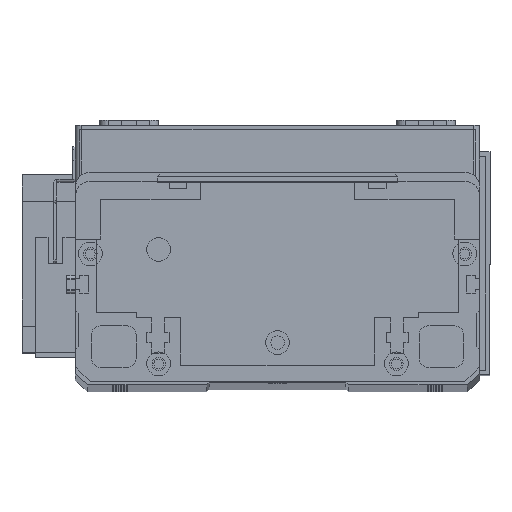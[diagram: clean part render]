
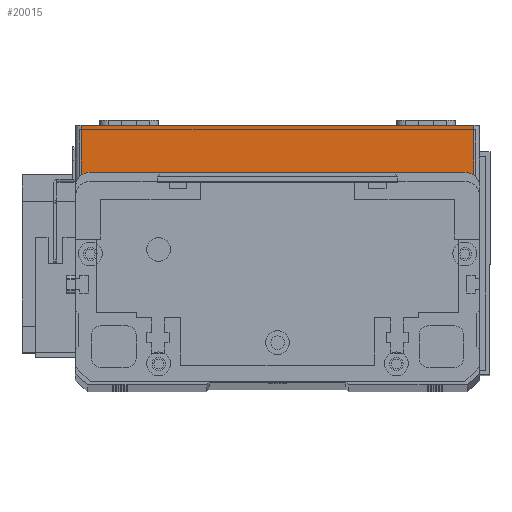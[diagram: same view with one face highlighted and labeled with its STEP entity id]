
A CAD part, top view. The second image highlights one B-rep face of the part: STEP entity #20015.
In plain terms, the highlighted planar face has unit normal (0, 0, 1) as drawn and (0, -1, 0) by its records, which use the part's own axes.
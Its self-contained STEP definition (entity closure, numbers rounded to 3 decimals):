
#106 = VECTOR ( 'NONE', #3117, 1000. ) ;
#722 = ORIENTED_EDGE ( 'NONE', *, *, #10774, .T. ) ;
#1078 = LINE ( 'NONE', #20976, #18610 ) ;
#1549 = LINE ( 'NONE', #3088, #106 ) ;
#1700 = PLANE ( 'NONE',  #15525 ) ;
#1969 = CARTESIAN_POINT ( 'NONE',  ( 134., 0., 0. ) ) ;
#2809 = CARTESIAN_POINT ( 'NONE',  ( 134., 0., 19.5 ) ) ;
#3088 = CARTESIAN_POINT ( 'NONE',  ( 0., 0., 19.5 ) ) ;
#3117 = DIRECTION ( 'NONE',  ( 1., 0., 0. ) ) ;
#5549 = VERTEX_POINT ( 'NONE', #14811 ) ;
#6232 = DIRECTION ( 'NONE',  ( 0., 1., 0. ) ) ;
#6380 = CARTESIAN_POINT ( 'NONE',  ( 134., 0., 19.5 ) ) ;
#6614 = DIRECTION ( 'NONE',  ( 0., 0., 1. ) ) ;
#7709 = VERTEX_POINT ( 'NONE', #2809 ) ;
#9378 = DIRECTION ( 'NONE',  ( 0., 0., -1. ) ) ;
#9733 = EDGE_CURVE ( 'NONE', #5549, #14105, #17908, .T. ) ;
#10774 = EDGE_CURVE ( 'NONE', #14105, #7709, #26393, .T. ) ;
#10777 = EDGE_LOOP ( 'NONE', ( #24521, #16837, #12508, #722 ) ) ;
#11715 = VECTOR ( 'NONE', #18210, 1000. ) ;
#12508 = ORIENTED_EDGE ( 'NONE', *, *, #9733, .T. ) ;
#12842 = EDGE_CURVE ( 'NONE', #17383, #7709, #1549, .T. ) ;
#14105 = VERTEX_POINT ( 'NONE', #1969 ) ;
#14517 = FACE_OUTER_BOUND ( 'NONE', #10777, .T. ) ;
#14724 = CARTESIAN_POINT ( 'NONE',  ( 2., 0., 19.5 ) ) ;
#14811 = CARTESIAN_POINT ( 'NONE',  ( 2., 0., 0. ) ) ;
#15525 = AXIS2_PLACEMENT_3D ( 'NONE', #20020, #6232, #22324 ) ;
#16837 = ORIENTED_EDGE ( 'NONE', *, *, #21219, .T. ) ;
#17383 = VERTEX_POINT ( 'NONE', #14724 ) ;
#17908 = LINE ( 'NONE', #19686, #11715 ) ;
#18210 = DIRECTION ( 'NONE',  ( 1., 0., 0. ) ) ;
#18610 = VECTOR ( 'NONE', #9378, 1000. ) ;
#19686 = CARTESIAN_POINT ( 'NONE',  ( 0., 0., 0. ) ) ;
#20015 = ADVANCED_FACE ( 'NONE', ( #14517 ), #1700, .F. ) ;
#20020 = CARTESIAN_POINT ( 'NONE',  ( 0., 0., 19.5 ) ) ;
#20976 = CARTESIAN_POINT ( 'NONE',  ( 2., 0., 19.5 ) ) ;
#21104 = VECTOR ( 'NONE', #6614, 1000. ) ;
#21219 = EDGE_CURVE ( 'NONE', #17383, #5549, #1078, .T. ) ;
#22324 = DIRECTION ( 'NONE',  ( 0., 0., 1. ) ) ;
#24521 = ORIENTED_EDGE ( 'NONE', *, *, #12842, .F. ) ;
#26393 = LINE ( 'NONE', #6380, #21104 ) ;
